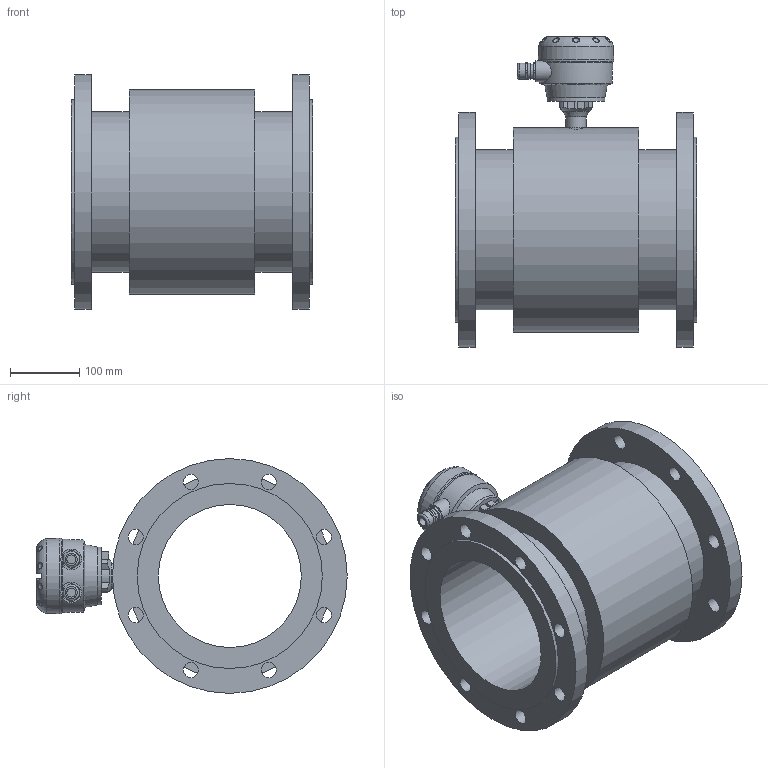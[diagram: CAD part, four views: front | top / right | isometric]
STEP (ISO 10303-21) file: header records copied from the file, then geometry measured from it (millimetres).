
FILE_DESCRIPTION (( 'STEP AP203' ), '1' );
FILE_NAME ('KROHNE_OPTIFLUX_2-4000W-WATERFLUX_3000F_DIN2632_DN200_PN10.STEP', '2011-04-26T11:22:48', ( '' ), ( '' ), 'SwSTEP 2.0', 'SolidWorks 2010', '' );
FILE_SCHEMA (( 'CONFIG_CONTROL_DESIGN' ));
Length unit declared in the file: millimetre
Products named in the file (1): KROHNE_OPTIFLUX_2-4000W-WATERFLUX_3000F_DIN2632_DN200_PN10
Bounding box: 350 x 449.49 x 340 mm (x, y, z)
Volume: 10966505 mm3; surface area: 918586.1 mm2
Topology: 14 solids, 14 shells, 343 faces, 837 edges, 544 vertices
Faces by surface type: plane 158, cylinder 93, bspline 53, torus 18, sphere 13, cone 8
Full cylindrical faces by diameter (mm): 4 x4, 6.6 x8, 13 x2, 20 x2, 22 x16, 23.5 x4, 29 x1, 30 x2, 84 x2, 109 x1, 207.1 x1, 232.1 x2, 268 x2, 296 x1, 340 x2
Entity records: 13992 total; most frequent: CARTESIAN_POINT 6499, ORIENTED_EDGE 1462, DIRECTION 1413, EDGE_CURVE 731, AXIS2_PLACEMENT_3D 525, VERTEX_POINT 515, EDGE_LOOP 502, FACE_OUTER_BOUND 410
